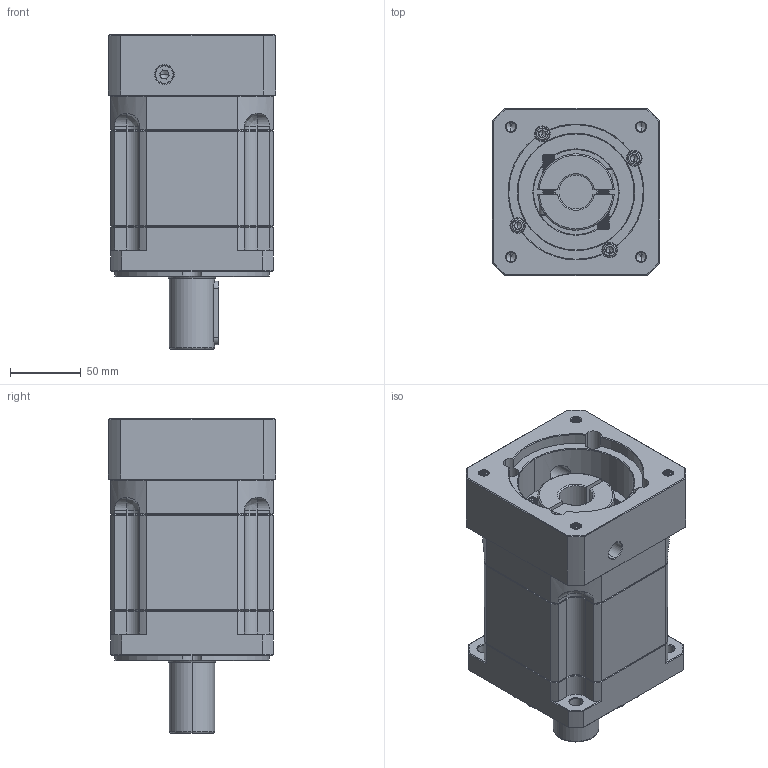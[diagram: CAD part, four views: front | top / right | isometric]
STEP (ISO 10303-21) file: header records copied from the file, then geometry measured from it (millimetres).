
FILE_DESCRIPTION (( 'STEP AP214' ), '1' );
FILE_NAME ('ZB115A-D32-L2-P2-24-95-130-M8.step', '2023-08-26T06:31:26', ( '' ), ( '' ), 'SwSTEP 2.0', 'SolidWorks 2016', '' );
FILE_SCHEMA (( 'AUTOMOTIVE_DESIGN' ));
Length unit declared in the file: millimetre
Products named in the file (1): ZB115A-D32-L2-P2-24-95-130-M8
Bounding box: 118 x 118 x 222 mm (x, y, z)
Volume: 1906764.4 mm3; surface area: 187098.5 mm2
Topology: 6 solids, 6 shells, 2402 faces, 6318 edges, 4012 vertices
Faces by surface type: plane 1144, cylinder 444, bspline 423, cone 371, torus 20
Entity records: 129866 total; most frequent: CARTESIAN_POINT 47758, ORIENTED_EDGE 12568, DIRECTION 9958, EDGE_CURVE 6284, VERTEX_POINT 4012, VECTOR 4004, LINE 4004, AXIS2_PLACEMENT_3D 2977
